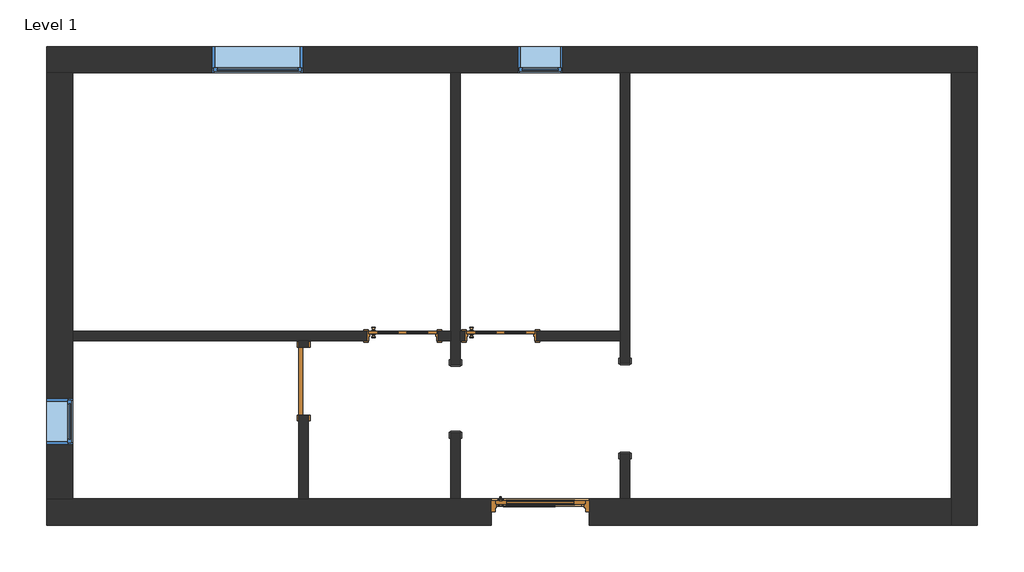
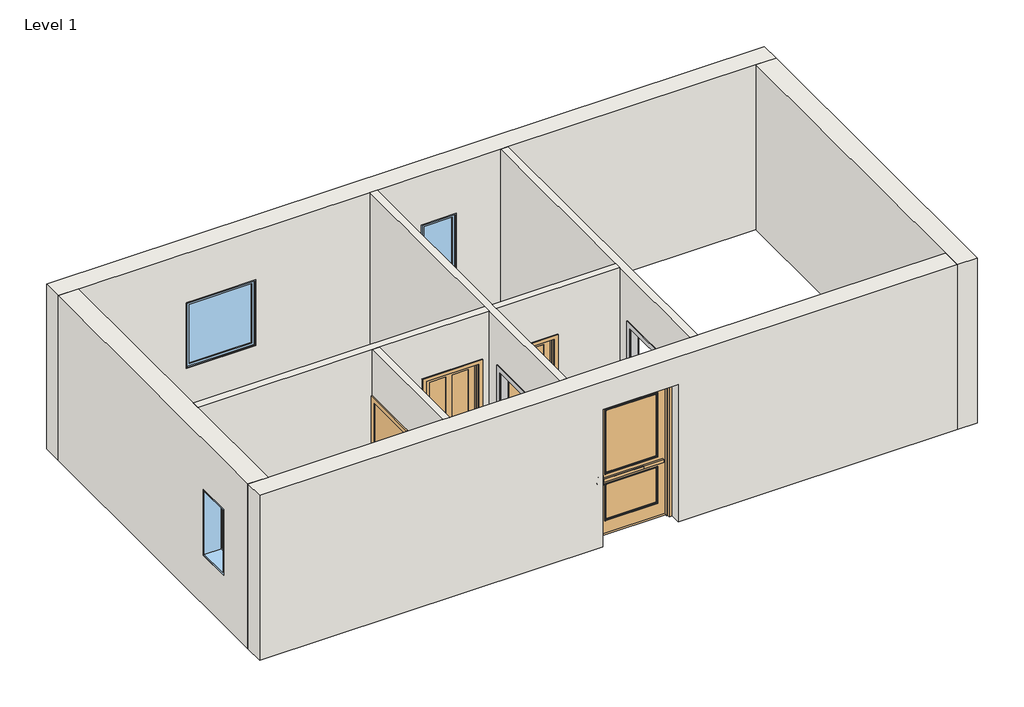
# One storey: 8 walls, 4 doors, 3 windows, 2 proxies.
"""IFC4 building model written with IfcOpenShell, lengths in millimetres."""

from ifc_helpers import new_model, si_unit, frame, origin, place, context, project, spatial, polyline, outline, extrude, faceted_brep, transform, mapped, element, save
from components import proxy_c0fc0f5a, proxy_f44482cc, door_c4539963, door_48307b55, door_a1797ceb, window_60baf983, window_6eb97611

model = new_model("IFC4")

# Units and contexts
model_context = context("Model", 3, world=origin())
ifc_project = project(units=[si_unit("LENGTHUNIT", "METRE", prefix="MILLI")], contexts=[model_context])

# Site, building, storey
site = spatial("IfcSite", under=ifc_project)
building = spatial("IfcBuilding", under=site)
storey = spatial("IfcBuildingStorey", under=building, Name="Level 1", Elevation=0.0)

# Proxies
placement = place(None, origin())
proxy_shape = proxy_c0fc0f5a(model_context)
element("IfcBuildingElementProxy", 1, Name="Passage Opening-Cased : 36\" x 84\"", ObjectType="Passage Opening-Cased : 36\" x 84\"", at=placement, inside=storey, context=model_context, shape_type="MappedRepresentation", body=[
    mapped(proxy_shape, transform((922.4428612, 1537.2944757, 0.0), x_axis=(0.0, 1.0, 0.0), y_axis=(-1.0, 0.0, 0.0), z_axis=(0.0, 0.0, 1.0))),
])
proxy_2_shape = proxy_f44482cc(model_context)
element("IfcBuildingElementProxy", 2, Name="Passage Opening-Cased : 48\" x 84\"", ObjectType="Passage Opening-Cased : 48\" x 84\"", at=placement, inside=storey, context=model_context, shape_type="MappedRepresentation", body=[
    mapped(proxy_2_shape, transform((3208.4428612, 1408.7069757, 0.0), x_axis=(0.0, 1.0, 0.0), y_axis=(-1.0, 0.0, 0.0), z_axis=(0.0, 0.0, 1.0))),
])

# Doors
door_shape = door_c4539963(model_context)
element("IfcDoor", 3, ObjectType="Door-Exterior-Single-Two_Lite : 48\" x 96\"", at=placement, inside=storey, context=model_context, shape_type="MappedRepresentation", body=[
    mapped(door_shape, transform((2065.4428612, -1.244181, 0.0), x_axis=(1.0, 0.0, 0.0), y_axis=(0.0, 1.0, 0.0), z_axis=(0.0, 0.0, 1.0))),
])
door_2_shape = door_48307b55(model_context)
element("IfcDoor", 4, ObjectType="Door-Interior-Single-4_Panel-Wood : 36\" x 84\"", at=placement, inside=storey, context=model_context, shape_type="MappedRepresentation", body=[
    mapped(door_2_shape, transform((1532.0428612, 2381.593319, 0.0), x_axis=(1.0, 0.0, 0.0), y_axis=(0.0, 1.0, 0.0), z_axis=(0.0, 0.0, 1.0))),
])
element("IfcDoor", 5, ObjectType="Door-Interior-Single-4_Panel-Wood : 36\" x 84\"", at=placement, inside=storey, context=model_context, shape_type="MappedRepresentation", body=[
    mapped(door_2_shape, transform((211.2428612, 2381.593319, 0.0), x_axis=(1.0, 0.0, 0.0), y_axis=(0.0, 1.0, 0.0), z_axis=(0.0, 0.0, 1.0))),
])
door_3_shape = door_a1797ceb(model_context)
element("IfcDoor", 6, ObjectType="Single-Flush : 36\" x 84\"", at=placement, inside=storey, context=model_context, shape_type="MappedRepresentation", body=[
    mapped(door_3_shape, transform((-1123.8446388, 1768.818319, 0.0), x_axis=(0.0, 1.0, 0.0), y_axis=(-1.0, 0.0, 0.0), z_axis=(0.0, 0.0, 1.0))),
])

# Walls
element("IfcWall", 7, ObjectType="Exterior - Brick on Mtl. Stud", at=placement, inside=storey, context=model_context, shape_type="Brep", body=[
    faceted_brep([(-4587.7696388, 5924.893319, 0.0), (-4235.3446388, 5924.893319, 0.0), (858.9428612, 5924.893319, 0.0), (985.9428612, 5924.893319, 0.0), (3144.9428612, 5924.893319, 0.0), (3271.9428612, 5924.893319, 0.0), (7604.2303612, 5924.893319, 0.0), (7956.6553612, 5924.893319, 0.0), (7956.6553612, 5924.893319, 3048.0), (7604.2303612, 5924.893319, 3048.0), (3271.9428612, 5924.893319, 3048.0), (3144.9428612, 5924.893319, 3048.0), (985.9428612, 5924.893319, 3048.0), (858.9428612, 5924.893319, 3048.0), (-4235.3446388, 5924.893319, 3048.0), (-4587.7696388, 5924.893319, 3048.0), (1760.6428612, 5924.893319, 2133.6), (2370.2428612, 5924.893319, 2133.6), (2370.2428612, 5924.893319, 914.4), (1760.6428612, 5924.893319, 914.4), (-2354.1571388, 5924.893319, 2133.6), (-1134.9571388, 5924.893319, 2133.6), (-1134.9571388, 5924.893319, 914.4), (-2354.1571388, 5924.893319, 914.4), (-4587.7696388, 6277.318319, 0.0), (-4587.7696388, 6277.318319, 3048.0), (7956.6553612, 6277.318319, 3048.0), (7956.6553612, 6277.318319, 0.0), (1760.6428612, 6277.318319, 2133.6), (1760.6428612, 6277.318319, 914.4), (2370.2428612, 6277.318319, 914.4), (2370.2428612, 6277.318319, 2133.6), (-2354.1571388, 6277.318319, 2133.6), (-2354.1571388, 6277.318319, 914.4), (-1134.9571388, 6277.318319, 914.4), (-1134.9571388, 6277.318319, 2133.6)], [[[0, 1, 2, 3, 4, 5, 6, 7, 8, 9, 10, 11, 12, 13, 14, 15], [16, 17, 18, 19], [20, 21, 22, 23]], [[24, 25, 26, 27], [28, 29, 30, 31], [32, 33, 34, 35]], [[7, 6, 5, 4, 3, 2, 1, 0, 24, 27]], [[15, 14, 13, 12, 11, 10, 9, 8, 26, 25]], [[8, 7, 27, 26]], [[0, 15, 25, 24]], [[29, 28, 16, 19]], [[30, 29, 19, 18]], [[31, 30, 18, 17]], [[28, 31, 17, 16]], [[33, 32, 20, 23]], [[34, 33, 23, 22]], [[35, 34, 22, 21]], [[32, 35, 21, 20]]]),
])
element("IfcWall", 8, ObjectType="Exterior - Brick on Mtl. Stud", at=placement, inside=storey, context=model_context, shape_type="Brep", body=[
    faceted_brep([(7604.2303612, 5924.893319, 0.0), (7604.2303612, 181.318319, 0.0), (7604.2303612, -171.106681, 0.0), (7604.2303612, -171.106681, 3048.0), (7604.2303612, 181.318319, 3048.0), (7604.2303612, 5924.893319, 3048.0), (7956.6553612, 5924.893319, 0.0), (7956.6553612, 5924.893319, 3048.0), (7956.6553612, -171.106681, 3048.0), (7956.6553612, -171.106681, 0.0)], [[[0, 1, 2, 3, 4, 5]], [[6, 7, 8, 9]], [[2, 1, 0, 6, 9]], [[5, 4, 3, 8, 7]], [[0, 5, 7, 6]], [[3, 2, 9, 8]]]),
])
element("IfcWall", 9, ObjectType="Exterior - Brick on Mtl. Stud", at=placement, inside=storey, context=model_context, shape_type="Brep", body=[
    faceted_brep([(-4587.7696388, 181.318319, 3048.0), (-4235.3446388, 181.318319, 3048.0), (-1187.3446388, 181.318319, 3048.0), (-1060.3446388, 181.318319, 3048.0), (858.9428612, 181.318319, 3048.0), (985.9428612, 181.318319, 3048.0), (3144.9428612, 181.318319, 3048.0), (3271.9428612, 181.318319, 3048.0), (7604.2303612, 181.318319, 3048.0), (7604.2303612, 181.318319, 0.0), (3271.9428612, 181.318319, 0.0), (3144.9428612, 181.318319, 0.0), (2725.8428612, 181.318319, 0.0), (2725.8428612, 181.318319, 2540.0), (1405.0428612, 181.318319, 2540.0), (1405.0428612, 181.318319, 0.0), (985.9428612, 181.318319, 0.0), (858.9428612, 181.318319, 0.0), (-1060.3446388, 181.318319, 0.0), (-1187.3446388, 181.318319, 0.0), (-4235.3446388, 181.318319, 0.0), (-4587.7696388, 181.318319, 0.0), (7604.2303612, -171.106681, 3048.0), (-4587.7696388, -171.106681, 3048.0), (-4587.7696388, -171.106681, 0.0), (1405.0428612, -171.106681, 0.0), (1405.0428612, -171.106681, 2540.0), (2725.8428612, -171.106681, 2540.0), (2725.8428612, -171.106681, 0.0), (7604.2303612, -171.106681, 0.0)], [[[0, 1, 2, 3, 4, 5, 6, 7, 8, 9, 10, 11, 12, 13, 14, 15, 16, 17, 18, 19, 20, 21]], [[22, 23, 24, 25, 26, 27, 28, 29]], [[9, 29, 28, 12, 11, 10]], [[24, 21, 20, 19, 18, 17, 16, 15, 25]], [[8, 7, 6, 5, 4, 3, 2, 1, 0, 23, 22]], [[9, 8, 22, 29]], [[0, 21, 24, 23]], [[27, 13, 12, 28]], [[13, 27, 26, 14]], [[14, 26, 25, 15]]]),
])
element("IfcWall", 10, ObjectType="Exterior - Brick on Mtl. Stud", at=placement, inside=storey, context=model_context, shape_type="Brep", body=[
    faceted_brep([(-4235.3446388, 181.318319, 0.0), (-4235.3446388, 2314.918319, 0.0), (-4235.3446388, 2441.918319, 0.0), (-4235.3446388, 5924.893319, 0.0), (-4235.3446388, 5924.893319, 3048.0), (-4235.3446388, 2441.918319, 3048.0), (-4235.3446388, 2314.918319, 3048.0), (-4235.3446388, 181.318319, 3048.0), (-4235.3446388, 919.505819, 2133.6), (-4235.3446388, 1529.105819, 2133.6), (-4235.3446388, 1529.105819, 914.4), (-4235.3446388, 919.505819, 914.4), (-4587.7696388, 181.318319, 0.0), (-4587.7696388, 181.318319, 3048.0), (-4587.7696388, 5924.893319, 3048.0), (-4587.7696388, 5924.893319, 0.0), (-4587.7696388, 919.505819, 2133.6), (-4587.7696388, 919.505819, 914.4), (-4587.7696388, 1529.105819, 914.4), (-4587.7696388, 1529.105819, 2133.6)], [[[0, 1, 2, 3, 4, 5, 6, 7], [8, 9, 10, 11]], [[12, 13, 14, 15], [16, 17, 18, 19]], [[3, 2, 1, 0, 12, 15]], [[7, 6, 5, 4, 14, 13]], [[0, 7, 13, 12]], [[4, 3, 15, 14]], [[17, 16, 8, 11]], [[18, 17, 11, 10]], [[19, 18, 10, 9]], [[16, 19, 9, 8]]]),
])
element("IfcWall", 11, ObjectType="Interior - 5\" Partition (2-hr)", at=placement, inside=storey, context=model_context, shape_type="Brep", body=[
    faceted_brep([(3144.9428612, 5924.893319, 0.0), (3144.9428612, 2441.918319, 0.0), (3144.9428612, 2314.918319, 0.0), (3144.9428612, 2010.118319, 0.0), (3144.9428612, 2010.118319, 2133.6), (3144.9428612, 790.918319, 2133.6), (3144.9428612, 790.918319, 0.0), (3144.9428612, 181.318319, 0.0), (3144.9428612, 181.318319, 3048.0), (3144.9428612, 2314.918319, 3048.0), (3144.9428612, 2441.918319, 3048.0), (3144.9428612, 5924.893319, 3048.0), (3271.9428612, 2010.118319, 2133.6), (3271.9428612, 2010.118319, 0.0), (3271.9428612, 5924.893319, 0.0), (3271.9428612, 5924.893319, 3048.0), (3271.9428612, 181.318319, 3048.0), (3271.9428612, 181.318319, 0.0), (3271.9428612, 790.918319, 0.0), (3271.9428612, 790.918319, 2133.6)], [[[0, 1, 2, 3, 4, 5, 6, 7, 8, 9, 10, 11]], [[12, 13, 14, 15, 16, 17, 18, 19]], [[18, 17, 7, 6]], [[14, 13, 3, 2, 1, 0]], [[11, 10, 9, 8, 16, 15]], [[0, 11, 15, 14]], [[8, 7, 17, 16]], [[6, 5, 19, 18]], [[4, 3, 13, 12]], [[5, 4, 12, 19]]]),
])
element("IfcWall", 12, ObjectType="Interior - 5\" Partition (2-hr)", at=placement, inside=storey, context=model_context, shape_type="Brep", body=[
    faceted_brep([(858.9428612, 5924.893319, 0.0), (858.9428612, 2441.918319, 0.0), (858.9428612, 2314.918319, 0.0), (858.9428612, 1986.305819, 0.0), (858.9428612, 1986.305819, 2133.6), (858.9428612, 1071.905819, 2133.6), (858.9428612, 1071.905819, 0.0), (858.9428612, 181.318319, 0.0), (858.9428612, 181.318319, 3048.0), (858.9428612, 2314.918319, 3048.0), (858.9428612, 2441.918319, 3048.0), (858.9428612, 5924.893319, 3048.0), (985.9428612, 1986.305819, 2133.6), (985.9428612, 1986.305819, 0.0), (985.9428612, 2314.918319, 0.0), (985.9428612, 2441.918319, 0.0), (985.9428612, 5924.893319, 0.0), (985.9428612, 5924.893319, 3048.0), (985.9428612, 2441.918319, 3048.0), (985.9428612, 2314.918319, 3048.0), (985.9428612, 181.318319, 3048.0), (985.9428612, 181.318319, 0.0), (985.9428612, 1071.905819, 0.0), (985.9428612, 1071.905819, 2133.6)], [[[0, 1, 2, 3, 4, 5, 6, 7, 8, 9, 10, 11]], [[12, 13, 14, 15, 16, 17, 18, 19, 20, 21, 22, 23]], [[22, 21, 7, 6]], [[16, 15, 14, 13, 3, 2, 1, 0]], [[11, 10, 9, 8, 20, 19, 18, 17]], [[0, 11, 17, 16]], [[8, 7, 21, 20]], [[6, 5, 23, 22]], [[4, 3, 13, 12]], [[5, 4, 12, 23]]]),
])
element("IfcWall", 13, ObjectType="Interior - 5\" Partition (2-hr)", at=placement, inside=storey, context=model_context, shape_type="Brep", body=[
    faceted_brep([(-4235.3446388, 2314.918319, 3048.0), (-4235.3446388, 2314.918319, 0.0), (-1187.3446388, 2314.918319, 0.0), (-1060.3446388, 2314.918319, 0.0), (-271.3571388, 2314.918319, 0.0), (-271.3571388, 2314.918319, 2159.0), (693.8428612, 2314.918319, 2159.0), (693.8428612, 2314.918319, 0.0), (858.9428612, 2314.918319, 0.0), (858.9428612, 2314.918319, 3048.0), (-1060.3446388, 2314.918319, 3048.0), (-1187.3446388, 2314.918319, 3048.0), (-4235.3446388, 2441.918319, 0.0), (-4235.3446388, 2441.918319, 3048.0), (858.9428612, 2441.918319, 3048.0), (858.9428612, 2441.918319, 0.0), (693.8428612, 2441.918319, 0.0), (693.8428612, 2441.918319, 2159.0), (-271.3571388, 2441.918319, 2159.0), (-271.3571388, 2441.918319, 0.0)], [[[0, 1, 2, 3, 4, 5, 6, 7, 8, 9, 10, 11]], [[12, 13, 14, 15, 16, 17, 18, 19]], [[1, 12, 19, 4, 3, 2]], [[7, 16, 15, 8]], [[13, 0, 11, 10, 9, 14]], [[1, 0, 13, 12]], [[9, 8, 15, 14]], [[6, 17, 16, 7]], [[17, 6, 5, 18]], [[18, 5, 4, 19]]]),
    faceted_brep([(3144.9428612, 2314.918319, 0.0), (3144.9428612, 2314.918319, 3048.0), (985.9428612, 2314.918319, 3048.0), (985.9428612, 2314.918319, 0.0), (1049.4428612, 2314.918319, 0.0), (1049.4428612, 2314.918319, 2159.0), (2014.6428612, 2314.918319, 2159.0), (2014.6428612, 2314.918319, 0.0), (3144.9428612, 2441.918319, 3048.0), (3144.9428612, 2441.918319, 0.0), (2014.6428612, 2441.918319, 0.0), (2014.6428612, 2441.918319, 2159.0), (1049.4428612, 2441.918319, 2159.0), (1049.4428612, 2441.918319, 0.0), (985.9428612, 2441.918319, 0.0), (985.9428612, 2441.918319, 3048.0)], [[[0, 1, 2, 3, 4, 5, 6, 7]], [[8, 9, 10, 11, 12, 13, 14, 15]], [[9, 0, 7, 10]], [[13, 4, 3, 14]], [[1, 8, 15, 2]], [[1, 0, 9, 8]], [[3, 2, 15, 14]], [[6, 11, 10, 7]], [[11, 6, 5, 12]], [[12, 5, 4, 13]]]),
])
element("IfcWall", 14, ObjectType="Interior - 5\" Partition (2-hr)", at=placement, inside=storey, context=model_context, shape_type="SweptSolid", body=[
    extrude(outline(polyline([(2314.918319, 0.0), (2226.018319, 0.0), (2226.018319, 2133.6), (1311.618319, 2133.6), (1311.618319, 0.0), (181.318319, 0.0), (181.318319, 3048.0), (2314.918319, 3048.0), (2314.918319, 0.0)])), frame((-1187.3446388, 0.0, 0.0), z_axis=(1.0, 0.0, 0.0), x_axis=(0.0, 1.0, 0.0)), (0.0, 0.0, 1.0), 127.0),
])

# Windows
window_shape = window_60baf983(model_context)
element("IfcWindow", 15, ObjectType="Fixed : 24\" x 48\"", at=placement, inside=storey, context=model_context, shape_type="MappedRepresentation", body=[
    mapped(window_shape, transform((2027.3428612, 6101.105819, 0.0), x_axis=(-1.0, 0.0, 0.0), y_axis=(0.0, -1.0, 0.0), z_axis=(0.0, 0.0, 1.0))),
])
element("IfcWindow", 16, ObjectType="Fixed : 24\" x 48\"", at=placement, inside=storey, context=model_context, shape_type="MappedRepresentation", body=[
    mapped(window_shape, transform((-4411.5571388, 1186.205819, 0.0), x_axis=(0.0, -1.0, 0.0), y_axis=(1.0, 0.0, 0.0), z_axis=(0.0, 0.0, 1.0))),
])
window_2_shape = window_6eb97611(model_context)
element("IfcWindow", 17, ObjectType="Fixed : 48\" x 48\"", at=placement, inside=storey, context=model_context, shape_type="MappedRepresentation", body=[
    mapped(window_2_shape, transform((-1782.6571388, 6101.105819, 0.0), x_axis=(-1.0, 0.0, 0.0), y_axis=(0.0, -1.0, 0.0), z_axis=(0.0, 0.0, 1.0))),
])

save(model, "model.ifc")
